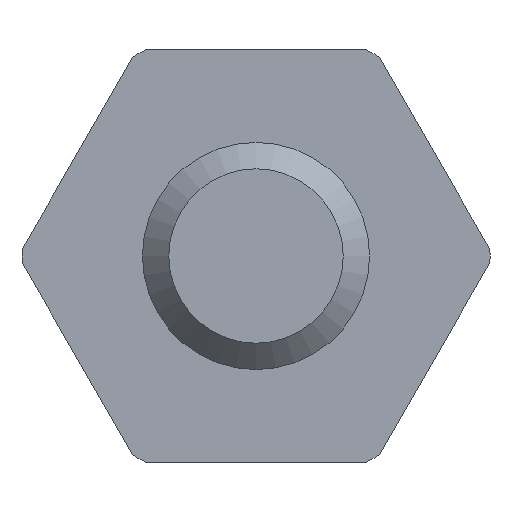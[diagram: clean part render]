
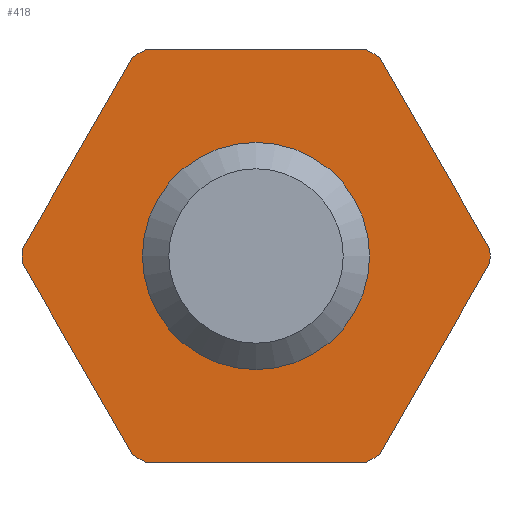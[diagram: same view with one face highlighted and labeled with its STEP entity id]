
A CAD part, left-side view. The second image highlights one B-rep face of the part: STEP entity #418.
In plain terms, the highlighted planar face has unit normal (-1, 0, 0).
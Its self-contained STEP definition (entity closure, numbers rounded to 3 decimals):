
#29=FACE_BOUND($,#83,.T.);
#30=FACE_BOUND($,#84,.T.);
#83=EDGE_LOOP($,(#323));
#84=EDGE_LOOP($,(#324,#325,#326,#327,#328,#329,#330,#331,#332,#333,#334,
#335));
#116=CIRCLE($,#454,2.25);
#117=CIRCLE($,#456,2.25);
#118=CIRCLE($,#458,2.25);
#119=CIRCLE($,#460,2.25);
#120=CIRCLE($,#462,2.25);
#121=CIRCLE($,#464,0.8);
#122=CIRCLE($,#465,2.25);
#139=LINE($,#658,#163);
#142=LINE($,#664,#166);
#144=LINE($,#669,#168);
#147=LINE($,#675,#171);
#150=LINE($,#681,#174);
#154=LINE($,#700,#178);
#163=VECTOR($,#526,2.133);
#166=VECTOR($,#531,2.133);
#168=VECTOR($,#535,2.133);
#171=VECTOR($,#540,2.133);
#174=VECTOR($,#545,2.133);
#178=VECTOR($,#573,2.133);
#195=VERTEX_POINT($,#654);
#196=VERTEX_POINT($,#656);
#197=VERTEX_POINT($,#660);
#198=VERTEX_POINT($,#662);
#199=VERTEX_POINT($,#666);
#200=VERTEX_POINT($,#668);
#201=VERTEX_POINT($,#672);
#202=VERTEX_POINT($,#674);
#203=VERTEX_POINT($,#678);
#204=VERTEX_POINT($,#680);
#205=VERTEX_POINT($,#684);
#206=VERTEX_POINT($,#692);
#207=VERTEX_POINT($,#698);
#234=EDGE_CURVE($,#195,#196,#139,.T.);
#237=EDGE_CURVE($,#197,#198,#142,.T.);
#239=EDGE_CURVE($,#200,#199,#144,.T.);
#242=EDGE_CURVE($,#202,#201,#147,.T.);
#245=EDGE_CURVE($,#204,#203,#150,.T.);
#247=EDGE_CURVE($,#205,#204,#116,.T.);
#249=EDGE_CURVE($,#203,#202,#117,.T.);
#250=EDGE_CURVE($,#201,#200,#118,.T.);
#252=EDGE_CURVE($,#196,#206,#119,.T.);
#253=EDGE_CURVE($,#199,#197,#120,.T.);
#254=EDGE_CURVE($,#207,#207,#121,.T.);
#255=EDGE_CURVE($,#206,#205,#154,.T.);
#256=EDGE_CURVE($,#198,#195,#122,.T.);
#323=ORIENTED_EDGE($,*,*,#254,.F.);
#324=ORIENTED_EDGE($,*,*,#234,.T.);
#325=ORIENTED_EDGE($,*,*,#252,.T.);
#326=ORIENTED_EDGE($,*,*,#255,.T.);
#327=ORIENTED_EDGE($,*,*,#247,.T.);
#328=ORIENTED_EDGE($,*,*,#245,.T.);
#329=ORIENTED_EDGE($,*,*,#249,.T.);
#330=ORIENTED_EDGE($,*,*,#242,.T.);
#331=ORIENTED_EDGE($,*,*,#250,.T.);
#332=ORIENTED_EDGE($,*,*,#239,.T.);
#333=ORIENTED_EDGE($,*,*,#253,.T.);
#334=ORIENTED_EDGE($,*,*,#237,.T.);
#335=ORIENTED_EDGE($,*,*,#256,.T.);
#370=PLANE($,#463);
#418=ADVANCED_FACE($,(#29,#30),#370,.T.);
#454=AXIS2_PLACEMENT_3D($,#685,#549,#550);
#456=AXIS2_PLACEMENT_3D($,#688,#554,#555);
#458=AXIS2_PLACEMENT_3D($,#690,#558,#559);
#460=AXIS2_PLACEMENT_3D($,#694,#563,#564);
#462=AXIS2_PLACEMENT_3D($,#696,#567,#568);
#463=AXIS2_PLACEMENT_3D($,#697,#569,#570);
#464=AXIS2_PLACEMENT_3D($,#699,#571,#572);
#465=AXIS2_PLACEMENT_3D($,#701,#574,#575);
#526=DIRECTION($,(0.,-0.5,-0.866));
#531=DIRECTION($,(0.,0.5,-0.866));
#535=DIRECTION($,(0.,1.,0.));
#540=DIRECTION($,(0.,0.5,0.866));
#545=DIRECTION($,(0.,-0.5,0.866));
#549=DIRECTION('center_axis',(-1.,0.,0.));
#550=DIRECTION('ref_axis',(0.,1.,0.));
#554=DIRECTION('center_axis',(-1.,0.,0.));
#555=DIRECTION('ref_axis',(0.,1.,0.));
#558=DIRECTION('center_axis',(-1.,0.,0.));
#559=DIRECTION('ref_axis',(0.,1.,0.));
#563=DIRECTION('center_axis',(-1.,0.,0.));
#564=DIRECTION('ref_axis',(0.,1.,0.));
#567=DIRECTION('center_axis',(-1.,0.,0.));
#568=DIRECTION('ref_axis',(0.,1.,0.));
#569=DIRECTION('center_axis',(-1.,0.,0.));
#570=DIRECTION('ref_axis',(0.,0.,1.));
#571=DIRECTION('center_axis',(-1.,0.,0.));
#572=DIRECTION('ref_axis',(0.,1.,0.));
#573=DIRECTION($,(0.,-1.,0.));
#574=DIRECTION('center_axis',(-1.,0.,0.));
#575=DIRECTION('ref_axis',(0.,1.,0.));
#654=CARTESIAN_POINT('',(-10.384,5.025,-0.067));
#656=CARTESIAN_POINT('',(-10.384,3.959,-1.914));
#658=CARTESIAN_POINT($,(-10.384,4.68,-0.664));
#660=CARTESIAN_POINT('',(-10.384,3.959,1.914));
#662=CARTESIAN_POINT('',(-10.384,5.025,0.067));
#664=CARTESIAN_POINT($,(-10.384,4.685,0.657));
#666=CARTESIAN_POINT('',(-10.384,3.843,1.981));
#668=CARTESIAN_POINT('',(-10.384,1.71,1.981));
#669=CARTESIAN_POINT($,(-10.384,3.543,1.981));
#672=CARTESIAN_POINT('',(-10.384,1.594,1.914));
#674=CARTESIAN_POINT('',(-10.384,0.527,0.067));
#675=CARTESIAN_POINT($,(-10.384,1.253,1.324));
#678=CARTESIAN_POINT('',(-10.384,0.527,-0.067));
#680=CARTESIAN_POINT('',(-10.384,1.594,-1.914));
#681=CARTESIAN_POINT($,(-10.384,1.249,-1.317));
#684=CARTESIAN_POINT('',(-10.384,1.71,-1.981));
#685=CARTESIAN_POINT('Origin',(-10.384,2.776,0.));
#688=CARTESIAN_POINT('Origin',(-10.384,2.776,0.));
#690=CARTESIAN_POINT('Origin',(-10.384,2.776,0.));
#692=CARTESIAN_POINT('',(-10.384,3.843,-1.981));
#694=CARTESIAN_POINT('Origin',(-10.384,2.776,0.));
#696=CARTESIAN_POINT('Origin',(-10.384,2.776,0.));
#697=CARTESIAN_POINT('Origin',(-10.384,4.301,0.));
#698=CARTESIAN_POINT('',(-10.384,3.576,0.));
#699=CARTESIAN_POINT('Origin',(-10.384,2.776,0.));
#700=CARTESIAN_POINT($,(-10.384,3.534,-1.981));
#701=CARTESIAN_POINT('Origin',(-10.384,2.776,0.));
